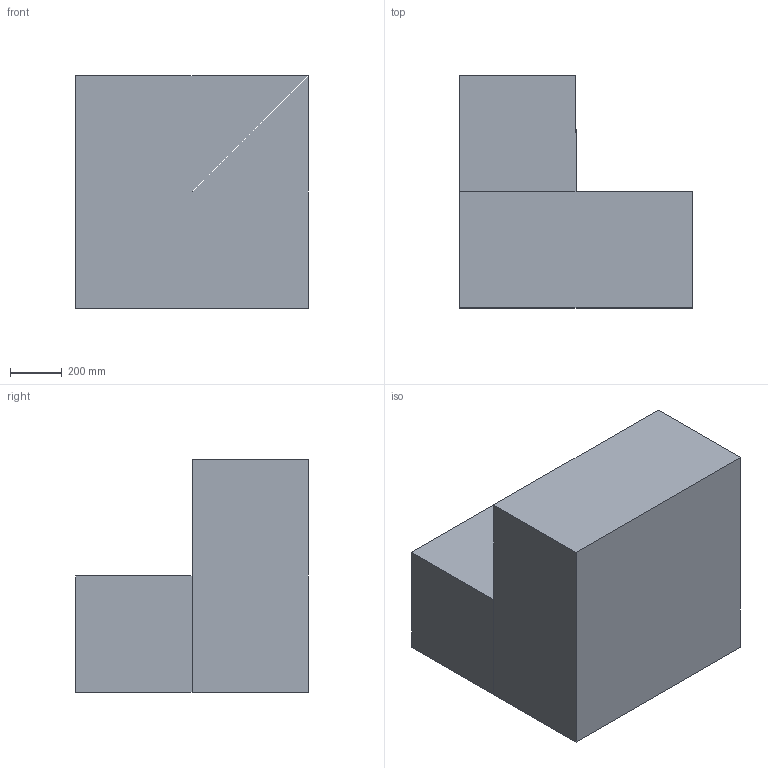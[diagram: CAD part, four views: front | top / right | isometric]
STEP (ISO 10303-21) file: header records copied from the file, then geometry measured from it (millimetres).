
FILE_DESCRIPTION (( 'STEP AP203' ), '1' );
FILE_NAME ('Type C Cubby.STEP', '2019-01-15T13:54:31', ( '' ), ( '' ), 'SwSTEP 2.0', 'SolidWorks 2019', '' );
FILE_SCHEMA (( 'CONFIG_CONTROL_DESIGN' ));
Length unit declared in the file: millimetre
Products named in the file (3): Extrabox Type D_Domy˜lna; Type C Cubby; Extrabox Cubby Type B_Domy˜lna
Assembly tree (2 placements, depth 2):
  Type C Cubby
    Extrabox Type D_Domy˜lna
    Extrabox Cubby Type B_Domy˜lna
Bounding box: 900 x 900 x 900 mm (x, y, z)
Volume: 382649136 mm3; surface area: 5232376 mm2
Topology: 2 solids, 2 shells, 22 faces, 48 edges, 32 vertices
Faces by surface type: plane 22
Entity records: 897 total; most frequent: CARTESIAN_POINT 107, DIRECTION 102, ORIENTED_EDGE 96, EDGE_CURVE 48, LINE 48, VECTOR 48, VERTEX_POINT 32, AXIS2_PLACEMENT_3D 27
